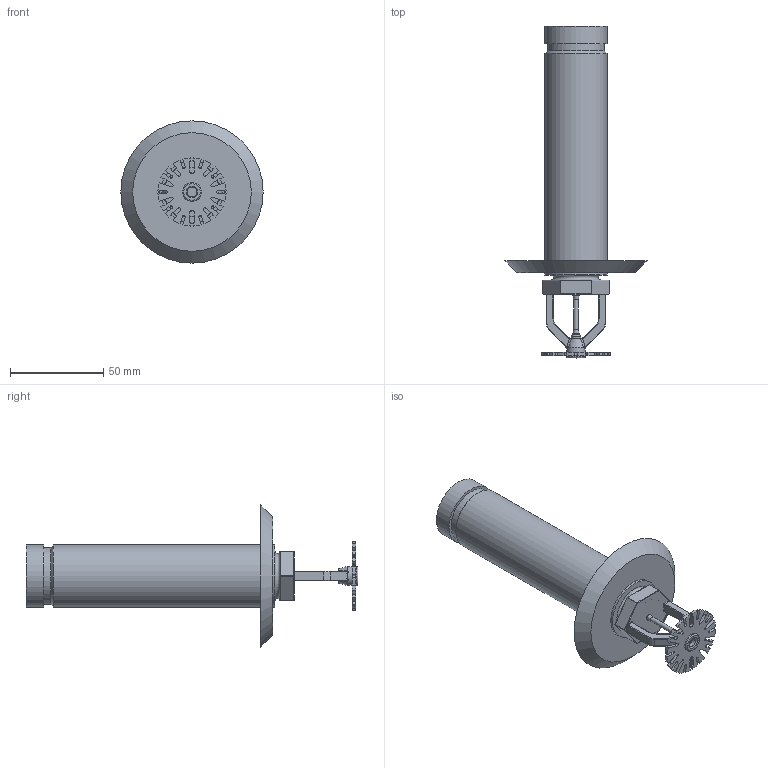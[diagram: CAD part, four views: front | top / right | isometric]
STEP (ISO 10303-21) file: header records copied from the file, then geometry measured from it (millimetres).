
FILE_DESCRIPTION(/* description */ ('VIC SPRINKLER V3614 K5.6 DRY PENDENT QUICK RESPONSE (IGS)'),/* implementation_level */ '2;1');
FILE_NAME(/* name */ 'C:\Users\Public\Documents\Victaulic.Temp\A572\Victaulic_FP-Sprinkler_V3614_DRY_QR_Pendent (IGS)_FLS_1 (25).stp',/* time_stamp */ '2024-09-24T08:13:27+02:00',/* author */ ('kkamble'),/* organization */ ('Victaulic'),/* preprocessor_version */ 'ST-DEVELOPER v18',/* originating_system */ 'Autodesk Inventor 2020',/* authorisation */ '');
FILE_SCHEMA (('AUTOMOTIVE_DESIGN { 1 0 10303 214 3 1 1 }'));
Length unit declared in the file: inch
Products named in the file (2): V3614_Flush-01.0; V3614-01
Assembly tree (1 placements, depth 2):
  V3614_Flush-01.0
    V3614-01
Bounding box: 76.2 x 177.8 x 76.2 mm (x, y, z)
Volume: 70962.6 mm3; surface area: 39719 mm2
Topology: 1 solids, 1 shells, 323 faces, 836 edges, 519 vertices
Faces by surface type: cylinder 107, plane 102, bspline 70, torus 25, sphere 12, cone 7
Full cylindrical faces by diameter (mm): 2.54 x1, 5.08 x2, 10.16 x2, 20.93 x1, 26.645 x1, 30.226 x1, 33.401 x3
Entity records: 11561 total; most frequent: CARTESIAN_POINT 3439, ORIENTED_EDGE 1664, DIRECTION 1576, EDGE_CURVE 832, AXIS2_PLACEMENT_3D 608, VERTEX_POINT 519, LINE 360, VECTOR 360
